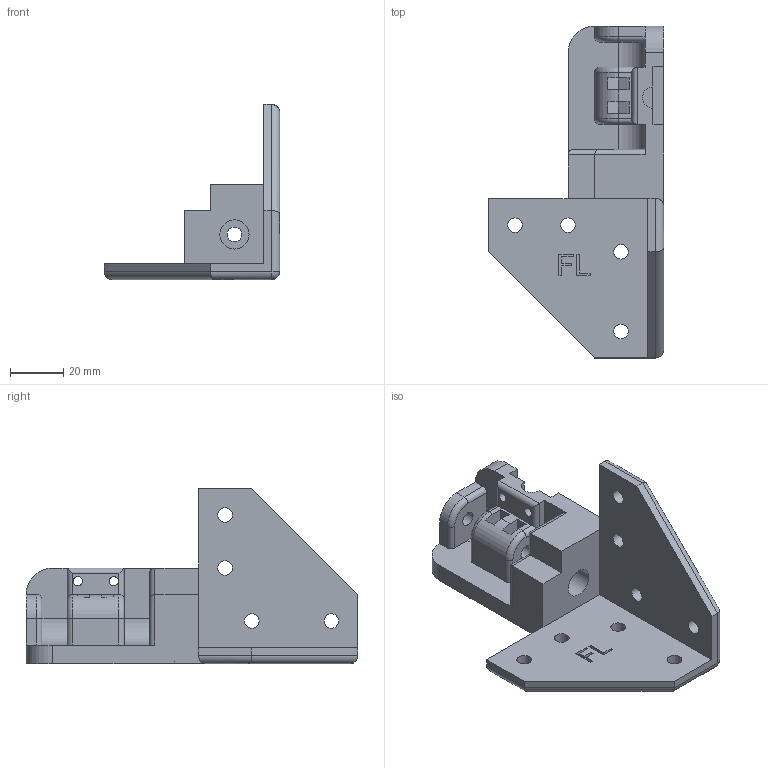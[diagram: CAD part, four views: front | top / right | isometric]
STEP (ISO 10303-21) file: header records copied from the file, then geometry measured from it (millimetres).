
FILE_DESCRIPTION(/* description */ (''),/* implementation_level */ '2;1');
FILE_NAME(/* name */ 'Idler FL x1 v4.step',/* time_stamp */ '2023-03-23T06:38:28-06:00',/* author */ (''),/* organization */ (''),/* preprocessor_version */ 'ST-DEVELOPER v19.2',/* originating_system */ 'Autodesk Translation Framework v11.17.0.187',/* authorisation */ '');
FILE_SCHEMA (('AUTOMOTIVE_DESIGN { 1 0 10303 214 3 1 1 }'));
Length unit declared in the file: millimetre
Products named in the file (2): Idler FL x1; FL Idler 1
Assembly tree (1 placements, depth 2):
  Idler FL x1
    FL Idler 1
Bounding box: 66 x 125 x 66 mm (x, y, z)
Volume: 83102.9 mm3; surface area: 27543.1 mm2
Topology: 1 solids, 1 shells, 200 faces, 511 edges, 332 vertices
Faces by surface type: plane 98, cylinder 53, bspline 45, torus 3, sphere 1
Full cylindrical faces by diameter (mm): 1.385 x1, 1.459 x1, 2.064 x2, 2.691 x1, 3.5 x2, 3.604 x1, 3.97 x1, 5.262 x1, 5.5 x13, 11 x1
Entity records: 8151 total; most frequent: CARTESIAN_POINT 3435, ORIENTED_EDGE 1022, DIRECTION 837, EDGE_CURVE 511, VERTEX_POINT 332, LINE 321, VECTOR 321, AXIS2_PLACEMENT_3D 258
